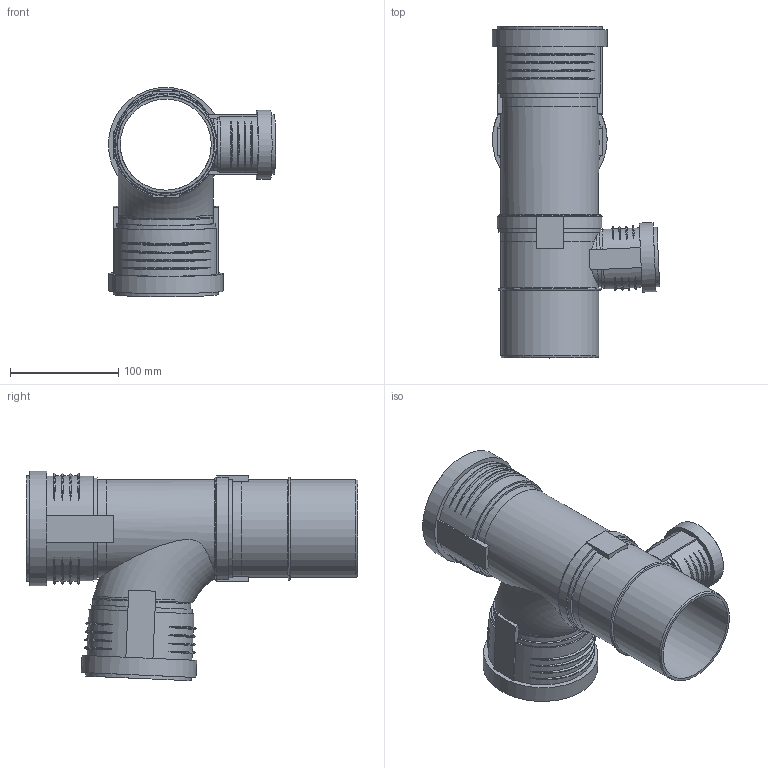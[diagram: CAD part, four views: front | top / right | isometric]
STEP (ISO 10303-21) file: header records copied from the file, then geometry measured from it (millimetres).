
FILE_DESCRIPTION(/* description */ (''),/* implementation_level */ '2;1');
FILE_NAME(/* name */ 'Z:\Geberit\Export\Export18\Kombiabzweig PP-MD_Iassembly\stp\390470.stp',/* time_stamp */ '2014-08-26T20:43:51+02:00',/* author */ ('ML'),/* organization */ (''),/* preprocessor_version */ 'ST-DEVELOPER v15.2',/* originating_system */ 'Autodesk Inventor 2014',/* authorisation */ '');
FILE_SCHEMA (('AUTOMOTIVE_DESIGN { 1 0 10303 214 3 1 1 }'));
Length unit declared in the file: millimetre
Products named in the file (11): 861356; 861401; 861403; 861744; 861358; 861403_1; 861745; 861863; 390470
Bounding box: 154.2 x 306 x 193.16 mm (x, y, z)
Volume: 427855.4 mm3; surface area: 297560.5 mm2
Topology: 6 solids, 6 shells, 220 faces, 539 edges, 370 vertices
Faces by surface type: torus 79, plane 77, cylinder 58, cone 6
Full cylindrical faces by diameter (mm): 46.15 x2, 50.15 x2, 51 x2, 55 x1, 59.7 x1, 63.7 x1, 84 x3, 84.2 x3, 90.2 x8, 91.2 x5, 97.2 x2, 99.8 x2, 105.8 x2
Entity records: 6564 total; most frequent: CARTESIAN_POINT 2606, DIRECTION 742, ORIENTED_EDGE 694, EDGE_CURVE 347, AXIS2_PLACEMENT_3D 317, VERTEX_POINT 259, EDGE_LOOP 246, STYLED_ITEM 168
